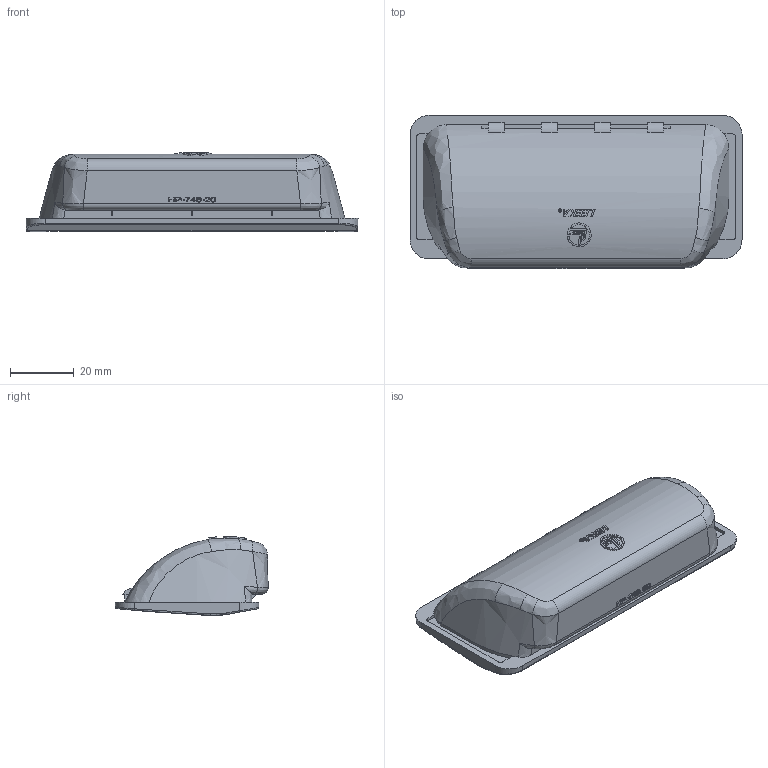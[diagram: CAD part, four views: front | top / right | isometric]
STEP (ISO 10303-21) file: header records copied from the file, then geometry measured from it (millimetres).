
FILE_DESCRIPTION (( 'STEP AP203' ), '1' );
FILE_NAME ('HP-746-20.STEP', '2015-11-23T06:47:58', ( '' ), ( '' ), 'SwSTEP 2.0', 'SolidWorks 2014', '' );
FILE_SCHEMA (( 'CONFIG_CONTROL_DESIGN' ));
Length unit declared in the file: millimetre
Products named in the file (1): HP-746-20
Bounding box: 104 x 48.04 x 24.77 mm (x, y, z)
Volume: 19331 mm3; surface area: 19194.8 mm2
Topology: 1 solids, 1 shells, 421 faces, 1119 edges, 720 vertices
Faces by surface type: plane 195, bspline 122, cylinder 104
Entity records: 18572 total; most frequent: CARTESIAN_POINT 9554, ORIENTED_EDGE 2230, DIRECTION 1230, EDGE_CURVE 1115, VERTEX_POINT 720, B_SPLINE_CURVE_WITH_KNOTS 532, LINE 510, VECTOR 510
